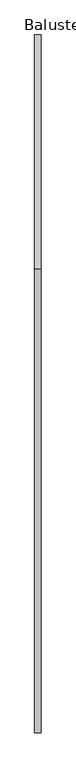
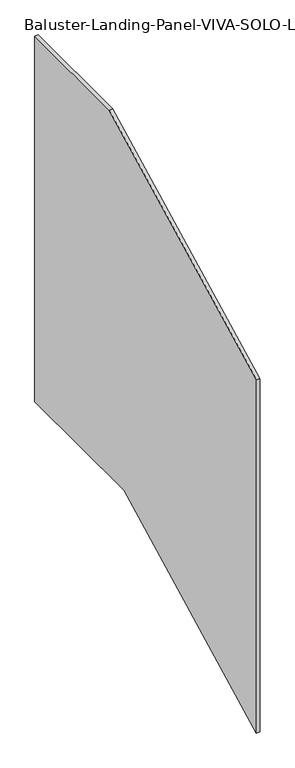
"""IFC4 building model written with IfcOpenShell, lengths in millimetres: railing geometry, Baluster-Landing-Panel-VIVA-SOLO-Lower : Standard_Glass."""

from ifc_helpers import new_model, si_unit, frame, origin, place, context, project, spatial, polyline, outline, extrude, source, transform, mapped, element, save


def baluster_landing_panel_viva_solo_lower_standard_glass_54ab52bf(model_context):
    return source(origin(), model_context, "Body", "SweptSolid", [
        extrude(outline(polyline([(680.085, 1112.52), (1025.525, 1112.52), (1025.525, 76.2), (611.6294537, 76.2), (-5.0108793, -237.7228611), (-5.0108793, 763.7473897), (680.085, 1112.52)])), frame((33.3375, 0.0, 0.0), z_axis=(1.0, 0.0, 0.0), x_axis=(0.0, 1.0, 0.0)), (0.0, 0.0, 1.0), 9.525),
    ])


if __name__ == "__main__":
    model = new_model("IFC4")
    model_context = context("Model", 3, world=origin())
    ifc_project = project(units=[si_unit("LENGTHUNIT", "METRE", prefix="MILLI")], contexts=[model_context])
    site = spatial("IfcSite", under=ifc_project)
    building = spatial("IfcBuilding", under=site)
    placement = place(None, origin())
    baluster_landing_panel_viva_solo_lower_standard_glass_shape = baluster_landing_panel_viva_solo_lower_standard_glass_54ab52bf(model_context)
    element("IfcRailing", 1, ObjectType="Baluster-Landing-Panel-VIVA-SOLO-Lower : Standard_Glass", at=placement, inside=building, context=model_context, shape_type="MappedRepresentation", body=[
        mapped(baluster_landing_panel_viva_solo_lower_standard_glass_shape, transform((0.0, 0.0, 0.0), x_axis=(1.0, 0.0, 0.0), y_axis=(0.0, 1.0, 0.0), z_axis=(0.0, 0.0, 1.0))),
    ])
    save(model, "model.ifc")
